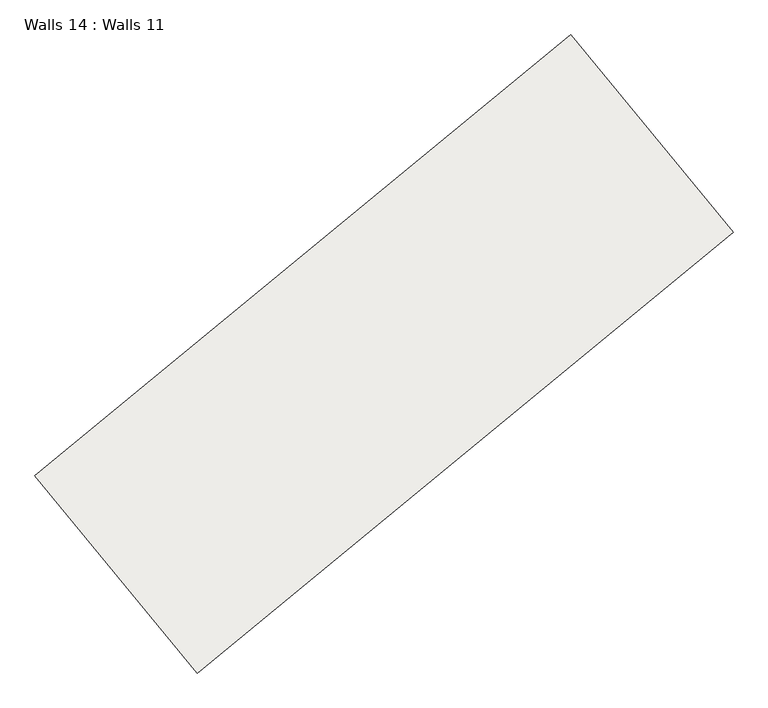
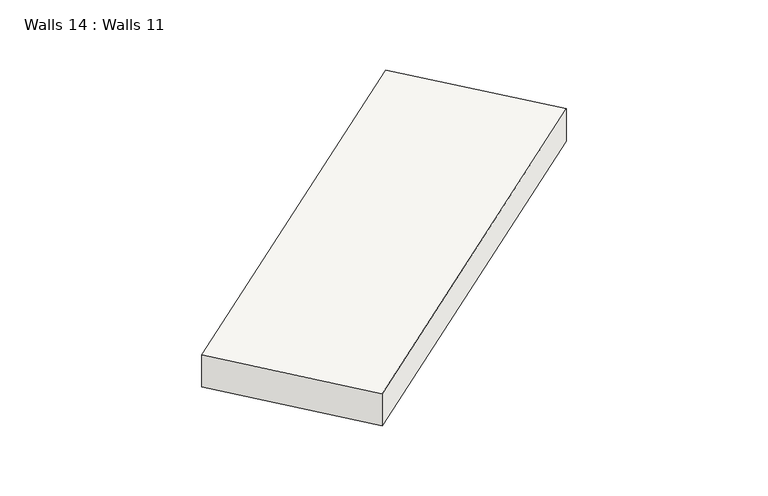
"""IFC4 building model written with IfcOpenShell, lengths in millimetres: slab geometry, Walls 14 : Walls 11."""

from ifc_helpers import new_model, si_unit, frame, origin, place, context, project, spatial, polyline, outline, extrude, source, transform, mapped, element, save


def walls_14_walls_11_4d145d34(model_context):
    return source(origin(), model_context, "Body", "SweptSolid", [
        extrude(outline(polyline([(-325.0, 0.0), (325.0, 0.0), (255.0, -8700.0000007), (-395.0, -8700.0000007), (-325.0, 0.0)])), frame((-270808.3285403, -429985.0310381, 634655.0), z_axis=(-0.6353361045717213, 0.7722357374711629, 0.0), x_axis=(0.0, 0.0, 1.0)), (0.0, 0.0, 1.0), 3200.0),
    ])


if __name__ == "__main__":
    model = new_model("IFC4")
    model_context = context("Model", 3, world=origin())
    ifc_project = project(units=[si_unit("LENGTHUNIT", "METRE", prefix="MILLI")], contexts=[model_context])
    site = spatial("IfcSite", under=ifc_project)
    building = spatial("IfcBuilding", under=site)
    placement = place(None, origin())
    walls_14_walls_11_shape = walls_14_walls_11_4d145d34(model_context)
    element("IfcSlab", 1, ObjectType="Walls 14 : Walls 11", at=placement, inside=building, context=model_context, shape_type="MappedRepresentation", body=[
        mapped(walls_14_walls_11_shape, transform((0.0, 0.0, 0.0), x_axis=(1.0, 0.0, 0.0), y_axis=(0.0, 1.0, 0.0), z_axis=(0.0, 0.0, 1.0))),
    ])
    save(model, "model.ifc")
